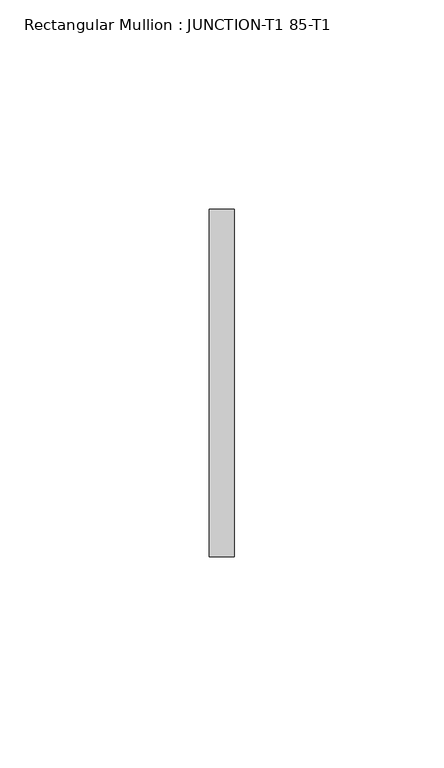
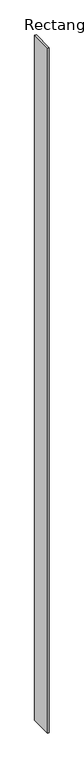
"""IFC4 building model written with IfcOpenShell, lengths in millimetres: member geometry, Rectangular Mullion : JUNCTION-T1 85-T1."""

from ifc_helpers import new_model, si_unit, frame, origin, place, context, project, spatial, polyline, outline, extrude, source, transform, mapped, element, save


def rectangular_mullion_junction_t1_85_t1_e380cd77(model_context):
    return source(origin(), model_context, "Body", "SweptSolid", [
        extrude(outline(polyline([(3.0, -41.5), (-3.0, -41.5), (-3.0, 41.5), (3.0, 41.5), (3.0, -41.5)])), frame((0.0, 0.0, -2685.0), z_axis=(0.0, 0.0, 1.0), x_axis=(1.0, 0.0, 0.0)), (0.0, 0.0, 1.0), 2685.0),
    ])


if __name__ == "__main__":
    model = new_model("IFC4")
    model_context = context("Model", 3, world=origin())
    ifc_project = project(units=[si_unit("LENGTHUNIT", "METRE", prefix="MILLI")], contexts=[model_context])
    site = spatial("IfcSite", under=ifc_project)
    building = spatial("IfcBuilding", under=site)
    placement = place(None, origin())
    rectangular_mullion_junction_t1_85_t1_shape = rectangular_mullion_junction_t1_85_t1_e380cd77(model_context)
    element("IfcMember", 1, ObjectType="Rectangular Mullion : JUNCTION-T1 85-T1", at=placement, inside=building, context=model_context, shape_type="MappedRepresentation", body=[
        mapped(rectangular_mullion_junction_t1_85_t1_shape, transform((0.0, 0.0, 0.0), x_axis=(1.0, 0.0, 0.0), y_axis=(0.0, 1.0, 0.0), z_axis=(0.0, 0.0, 1.0))),
    ])
    save(model, "model.ifc")
